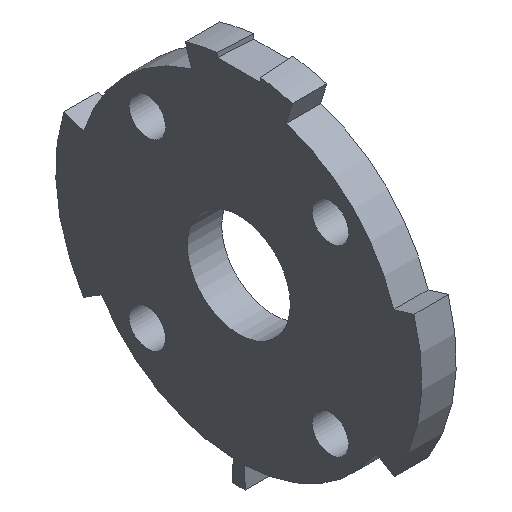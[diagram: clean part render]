
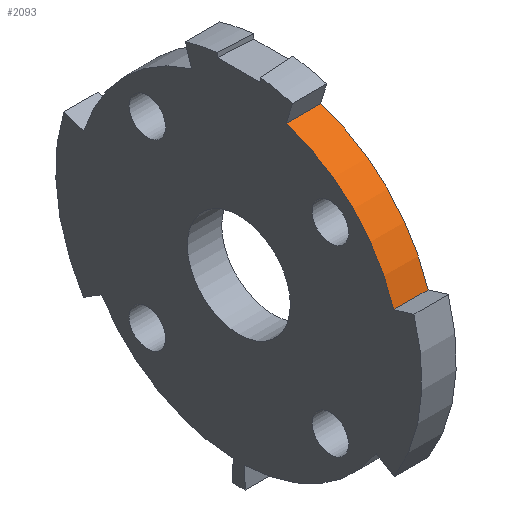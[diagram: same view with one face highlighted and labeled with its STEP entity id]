
A CAD part, isometric view. The second image highlights one B-rep face of the part: STEP entity #2093.
In plain terms, the highlighted cylindrical face has radius 14.15 mm (diameter 28.3 mm), a partial arc.
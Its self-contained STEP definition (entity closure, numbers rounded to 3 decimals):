
#198 = PLANE('',#199);
#199 = AXIS2_PLACEMENT_3D('',#200,#201,#202);
#200 = CARTESIAN_POINT('',(425.6,0.,0.));
#201 = DIRECTION('',(1.,0.,0.));
#202 = DIRECTION('',(-0.,0.,1.));
#251 = PLANE('',#252);
#252 = AXIS2_PLACEMENT_3D('',#253,#254,#255);
#253 = CARTESIAN_POINT('',(422.6,0.,0.));
#254 = DIRECTION('',(1.,0.,0.));
#255 = DIRECTION('',(-0.,0.,1.));
#720 = VERTEX_POINT('',#721);
#721 = CARTESIAN_POINT('',(422.6,-4.137,13.532));
#734 = PLANE('',#735);
#735 = AXIS2_PLACEMENT_3D('',#736,#737,#738);
#736 = CARTESIAN_POINT('',(421.6,0.,0.));
#737 = DIRECTION('',(0.,-0.956,-0.292));
#738 = DIRECTION('',(0.,-0.292,0.956));
#745 = EDGE_CURVE('',#720,#746,#748,.T.);
#746 = VERTEX_POINT('',#747);
#747 = CARTESIAN_POINT('',(422.6,-13.532,4.137));
#748 = SURFACE_CURVE('',#749,(#754,#761),.PCURVE_S1.);
#749 = CIRCLE('',#750,14.15);
#750 = AXIS2_PLACEMENT_3D('',#751,#752,#753);
#751 = CARTESIAN_POINT('',(422.6,0.,0.));
#752 = DIRECTION('',(1.,0.,0.));
#753 = DIRECTION('',(-0.,0.,1.));
#754 = PCURVE('',#251,#755);
#755 = DEFINITIONAL_REPRESENTATION('',(#756),#760);
#756 = CIRCLE('',#757,14.15);
#757 = AXIS2_PLACEMENT_2D('',#758,#759);
#758 = CARTESIAN_POINT('',(0.,0.));
#759 = DIRECTION('',(1.,0.));
#760 = ( GEOMETRIC_REPRESENTATION_CONTEXT(2) 
PARAMETRIC_REPRESENTATION_CONTEXT() REPRESENTATION_CONTEXT('2D SPACE',''
  ) );
#761 = PCURVE('',#762,#767);
#762 = CYLINDRICAL_SURFACE('',#763,14.15);
#763 = AXIS2_PLACEMENT_3D('',#764,#765,#766);
#764 = CARTESIAN_POINT('',(420.6,0.,0.));
#765 = DIRECTION('',(1.,0.,0.));
#766 = DIRECTION('',(-0.,0.,1.));
#767 = DEFINITIONAL_REPRESENTATION('',(#768),#772);
#768 = LINE('',#769,#770);
#769 = CARTESIAN_POINT('',(0.,2.));
#770 = VECTOR('',#771,1.);
#771 = DIRECTION('',(1.,0.));
#772 = ( GEOMETRIC_REPRESENTATION_CONTEXT(2) 
PARAMETRIC_REPRESENTATION_CONTEXT() REPRESENTATION_CONTEXT('2D SPACE',''
  ) );
#789 = PLANE('',#790);
#790 = AXIS2_PLACEMENT_3D('',#791,#792,#793);
#791 = CARTESIAN_POINT('',(421.6,-28.689,8.771));
#792 = DIRECTION('',(-0.,0.292,0.956));
#793 = DIRECTION('',(0.,0.956,-0.292));
#1368 = VERTEX_POINT('',#1369);
#1369 = CARTESIAN_POINT('',(425.6,-4.137,13.532));
#1388 = EDGE_CURVE('',#1368,#1389,#1391,.T.);
#1389 = VERTEX_POINT('',#1390);
#1390 = CARTESIAN_POINT('',(425.6,-13.532,4.137));
#1391 = SURFACE_CURVE('',#1392,(#1397,#1404),.PCURVE_S1.);
#1392 = CIRCLE('',#1393,14.15);
#1393 = AXIS2_PLACEMENT_3D('',#1394,#1395,#1396);
#1394 = CARTESIAN_POINT('',(425.6,0.,0.));
#1395 = DIRECTION('',(1.,0.,0.));
#1396 = DIRECTION('',(-0.,0.,1.));
#1397 = PCURVE('',#198,#1398);
#1398 = DEFINITIONAL_REPRESENTATION('',(#1399),#1403);
#1399 = CIRCLE('',#1400,14.15);
#1400 = AXIS2_PLACEMENT_2D('',#1401,#1402);
#1401 = CARTESIAN_POINT('',(0.,0.));
#1402 = DIRECTION('',(1.,0.));
#1403 = ( GEOMETRIC_REPRESENTATION_CONTEXT(2) 
PARAMETRIC_REPRESENTATION_CONTEXT() REPRESENTATION_CONTEXT('2D SPACE',''
  ) );
#1404 = PCURVE('',#762,#1405);
#1405 = DEFINITIONAL_REPRESENTATION('',(#1406),#1410);
#1406 = LINE('',#1407,#1408);
#1407 = CARTESIAN_POINT('',(0.,5.));
#1408 = VECTOR('',#1409,1.);
#1409 = DIRECTION('',(1.,0.));
#1410 = ( GEOMETRIC_REPRESENTATION_CONTEXT(2) 
PARAMETRIC_REPRESENTATION_CONTEXT() REPRESENTATION_CONTEXT('2D SPACE',''
  ) );
#2072 = EDGE_CURVE('',#746,#1389,#2073,.T.);
#2073 = SURFACE_CURVE('',#2074,(#2078,#2084),.PCURVE_S1.);
#2074 = LINE('',#2075,#2076);
#2075 = CARTESIAN_POINT('',(420.6,-13.532,4.137));
#2076 = VECTOR('',#2077,1.);
#2077 = DIRECTION('',(1.,0.,0.));
#2078 = PCURVE('',#789,#2079);
#2079 = DEFINITIONAL_REPRESENTATION('',(#2080),#2083);
#2080 = B_SPLINE_CURVE_WITH_KNOTS('',1,(#2081,#2082),.UNSPECIFIED.,.F.,
  .F.,(2,2),(0.5,6.5),.PIECEWISE_BEZIER_KNOTS.);
#2081 = CARTESIAN_POINT('',(15.85,0.5));
#2082 = CARTESIAN_POINT('',(15.85,-5.5));
#2083 = ( GEOMETRIC_REPRESENTATION_CONTEXT(2) 
PARAMETRIC_REPRESENTATION_CONTEXT() REPRESENTATION_CONTEXT('2D SPACE',''
  ) );
#2084 = PCURVE('',#762,#2085);
#2085 = DEFINITIONAL_REPRESENTATION('',(#2086),#2089);
#2086 = B_SPLINE_CURVE_WITH_KNOTS('',1,(#2087,#2088),.UNSPECIFIED.,.F.,
  .F.,(2,2),(0.5,6.5),.PIECEWISE_BEZIER_KNOTS.);
#2087 = CARTESIAN_POINT('',(1.274,0.5));
#2088 = CARTESIAN_POINT('',(1.274,6.5));
#2089 = ( GEOMETRIC_REPRESENTATION_CONTEXT(2) 
PARAMETRIC_REPRESENTATION_CONTEXT() REPRESENTATION_CONTEXT('2D SPACE',''
  ) );
#2093 = ADVANCED_FACE('',(#2094),#762,.T.);
#2094 = FACE_BOUND('',#2095,.T.);
#2095 = EDGE_LOOP('',(#2096,#2115,#2116,#2117));
#2096 = ORIENTED_EDGE('',*,*,#2097,.F.);
#2097 = EDGE_CURVE('',#720,#1368,#2098,.T.);
#2098 = SURFACE_CURVE('',#2099,(#2103,#2109),.PCURVE_S1.);
#2099 = LINE('',#2100,#2101);
#2100 = CARTESIAN_POINT('',(420.6,-4.137,13.532));
#2101 = VECTOR('',#2102,1.);
#2102 = DIRECTION('',(1.,0.,0.));
#2103 = PCURVE('',#762,#2104);
#2104 = DEFINITIONAL_REPRESENTATION('',(#2105),#2108);
#2105 = B_SPLINE_CURVE_WITH_KNOTS('',1,(#2106,#2107),.UNSPECIFIED.,.F.,
  .F.,(2,2),(0.5,6.5),.PIECEWISE_BEZIER_KNOTS.);
#2106 = CARTESIAN_POINT('',(0.297,0.5));
#2107 = CARTESIAN_POINT('',(0.297,6.5));
#2108 = ( GEOMETRIC_REPRESENTATION_CONTEXT(2) 
PARAMETRIC_REPRESENTATION_CONTEXT() REPRESENTATION_CONTEXT('2D SPACE',''
  ) );
#2109 = PCURVE('',#734,#2110);
#2110 = DEFINITIONAL_REPRESENTATION('',(#2111),#2114);
#2111 = B_SPLINE_CURVE_WITH_KNOTS('',1,(#2112,#2113),.UNSPECIFIED.,.F.,
  .F.,(2,2),(0.5,6.5),.PIECEWISE_BEZIER_KNOTS.);
#2112 = CARTESIAN_POINT('',(14.15,0.5));
#2113 = CARTESIAN_POINT('',(14.15,-5.5));
#2114 = ( GEOMETRIC_REPRESENTATION_CONTEXT(2) 
PARAMETRIC_REPRESENTATION_CONTEXT() REPRESENTATION_CONTEXT('2D SPACE',''
  ) );
#2115 = ORIENTED_EDGE('',*,*,#745,.T.);
#2116 = ORIENTED_EDGE('',*,*,#2072,.T.);
#2117 = ORIENTED_EDGE('',*,*,#1388,.F.);
